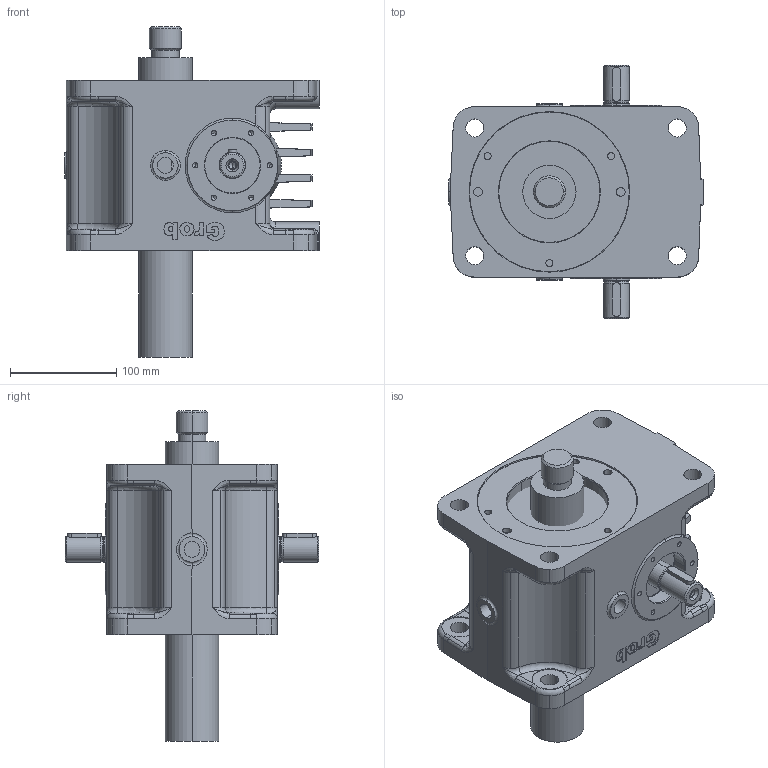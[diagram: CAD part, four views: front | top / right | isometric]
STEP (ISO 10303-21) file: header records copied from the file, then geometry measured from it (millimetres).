
FILE_DESCRIPTION(('STEP AP203'),'1');
FILE_NAME('hmc5-gn-kd-kd-1f-ge-0100-0000-tr50x9-b-0-o-0.stp','2025-08-19T11:51:10',('TraceParts'),('TraceParts S.A.'),'Spatial InterOp 3D',' ',' ');
FILE_SCHEMA(('CONFIG_CONTROL_DESIGN'));
Length unit declared in the file: millimetre
Products named in the file (1): 1
Bounding box: 239 x 238 x 310 mm (x, y, z)
Volume: 5485365.9 mm3; surface area: 427692.7 mm2
Topology: 7 solids, 7 shells, 713 faces, 1757 edges, 1070 vertices
Faces by surface type: cylinder 286, plane 159, cone 96, bspline 94, torus 78
Entity records: 23356 total; most frequent: CARTESIAN_POINT 6795, DIRECTION 3454, ORIENTED_EDGE 3430, EDGE_CURVE 1715, AXIS2_PLACEMENT_3D 1381, VERTEX_POINT 1070, EDGE_LOOP 807, CIRCLE 751
